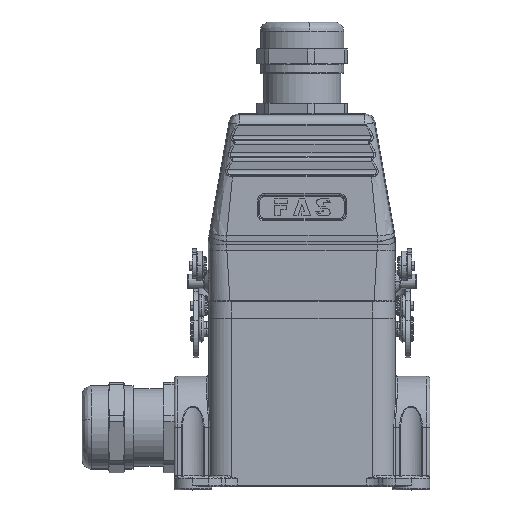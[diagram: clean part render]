
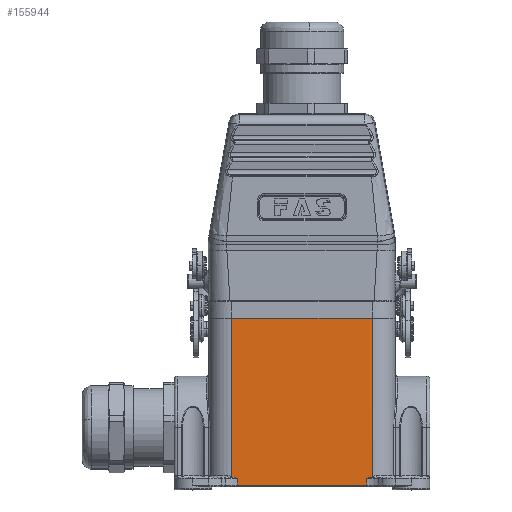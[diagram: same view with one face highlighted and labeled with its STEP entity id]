
A CAD part, top view. The second image highlights one B-rep face of the part: STEP entity #155944.
In plain terms, the highlighted planar face has unit normal (0, 0, 1) as drawn and (1, 0, 0) by its records, which use the part's own axes.
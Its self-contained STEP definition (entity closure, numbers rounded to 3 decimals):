
#370 = VECTOR ( 'NONE', #30819, 1000. ) ;
#898 = VECTOR ( 'NONE', #129121, 1000. ) ;
#4375 = CARTESIAN_POINT ( 'NONE',  ( 21.5, 3.216, -22.5 ) ) ;
#10214 = DIRECTION ( 'NONE',  ( 0., 1., 0. ) ) ;
#11310 = VERTEX_POINT ( 'NONE', #41848 ) ;
#14901 = VECTOR ( 'NONE', #144685, 1000. ) ;
#16534 = CARTESIAN_POINT ( 'NONE',  ( 21.5, 3.216, 22.5 ) ) ;
#17316 = DIRECTION ( 'NONE',  ( 0., -1., 0. ) ) ;
#18478 = CARTESIAN_POINT ( 'NONE',  ( 21.5, 3.123, 22.222 ) ) ;
#18586 = CARTESIAN_POINT ( 'NONE',  ( 21.5, 54., 22.5 ) ) ;
#20644 = CARTESIAN_POINT ( 'NONE',  ( 21.5, 2.565, -20.879 ) ) ;
#21063 = VERTEX_POINT ( 'NONE', #4375 ) ;
#21440 = CARTESIAN_POINT ( 'NONE',  ( 21.5, 3.015, -21.934 ) ) ;
#21601 = LINE ( 'NONE', #136534, #157988 ) ;
#22021 = VERTEX_POINT ( 'NONE', #26403 ) ;
#24574 = PLANE ( 'NONE',  #48036 ) ;
#26403 = CARTESIAN_POINT ( 'NONE',  ( 21.5, 54., -22.5 ) ) ;
#27118 = EDGE_CURVE ( 'NONE', #21063, #22021, #149546, .T. ) ;
#28550 = DIRECTION ( 'NONE',  ( 1., 0., 0. ) ) ;
#30819 = DIRECTION ( 'NONE',  ( 0., 0., 1. ) ) ;
#30968 = DIRECTION ( 'NONE',  ( 0., 1., 0. ) ) ;
#34483 = CARTESIAN_POINT ( 'NONE',  ( 21.5, 2.854, -21.544 ) ) ;
#39201 = VERTEX_POINT ( 'NONE', #16534 ) ;
#41848 = CARTESIAN_POINT ( 'NONE',  ( 21.5, 0.5, 20.737 ) ) ;
#41898 = CARTESIAN_POINT ( 'NONE',  ( 21.5, 54., 30. ) ) ;
#42238 = CARTESIAN_POINT ( 'NONE',  ( 21.5, 0.5, -22.746 ) ) ;
#48036 = AXIS2_PLACEMENT_3D ( 'NONE', #124049, #28550, #30968 ) ;
#50831 = VERTEX_POINT ( 'NONE', #18586 ) ;
#51328 = ORIENTED_EDGE ( 'NONE', *, *, #27118, .T. ) ;
#54714 = B_SPLINE_CURVE_WITH_KNOTS ( 'NONE', 3,
 ( #130157, #18478, #123566, #108133, #73795, #147314, #59995, #110576, #148107, #59192 ),
 .UNSPECIFIED., .F., .F.,
 ( 4, 1, 2, 2, 1, 4 ),
 ( 0., 0.5, 0.563, 0.625, 0.75, 1. ),
 .UNSPECIFIED. ) ;
#59192 = CARTESIAN_POINT ( 'NONE',  ( 21.5, 2.5, 20.737 ) ) ;
#59995 = CARTESIAN_POINT ( 'NONE',  ( 21.5, 2.756, 21.314 ) ) ;
#63686 = FACE_OUTER_BOUND ( 'NONE', #147184, .T. ) ;
#64018 = EDGE_CURVE ( 'NONE', #147212, #133190, #21601, .T. ) ;
#64651 = CARTESIAN_POINT ( 'NONE',  ( 21.5, 0., -22.5 ) ) ;
#70327 = CARTESIAN_POINT ( 'NONE',  ( 21.5, 2.756, -21.314 ) ) ;
#70374 = B_SPLINE_CURVE_WITH_KNOTS ( 'NONE', 3,
 ( #80982, #20644, #133134, #70327, #120095, #34483, #21440, #71144, #120922 ),
 .UNSPECIFIED., .F., .F.,
 ( 4, 1, 2, 2, 4 ),
 ( 0., 0.25, 0.375, 0.5, 1. ),
 .UNSPECIFIED. ) ;
#71144 = CARTESIAN_POINT ( 'NONE',  ( 21.5, 3.125, -22.227 ) ) ;
#73795 = CARTESIAN_POINT ( 'NONE',  ( 21.5, 2.819, 21.46 ) ) ;
#78946 = LINE ( 'NONE', #42238, #370 ) ;
#80982 = CARTESIAN_POINT ( 'NONE',  ( 21.5, 2.5, -20.737 ) ) ;
#81768 = ORIENTED_EDGE ( 'NONE', *, *, #141191, .T. ) ;
#84775 = VECTOR ( 'NONE', #17316, 1000. ) ;
#91351 = ORIENTED_EDGE ( 'NONE', *, *, #116264, .T. ) ;
#91473 = LINE ( 'NONE', #117563, #84775 ) ;
#93297 = CARTESIAN_POINT ( 'NONE',  ( 21.5, 2.5, 20.737 ) ) ;
#93933 = EDGE_CURVE ( 'NONE', #133190, #21063, #70374, .T. ) ;
#102941 = DIRECTION ( 'NONE',  ( 0., 1., 0. ) ) ;
#103070 = LINE ( 'NONE', #41898, #898 ) ;
#107114 = LINE ( 'NONE', #122587, #14901 ) ;
#108133 = CARTESIAN_POINT ( 'NONE',  ( 21.5, 2.852, 21.538 ) ) ;
#109142 = ORIENTED_EDGE ( 'NONE', *, *, #93933, .T. ) ;
#109240 = VERTEX_POINT ( 'NONE', #93297 ) ;
#110576 = CARTESIAN_POINT ( 'NONE',  ( 21.5, 2.662, 21.095 ) ) ;
#111985 = CARTESIAN_POINT ( 'NONE',  ( 21.5, 0.5, -20.737 ) ) ;
#116264 = EDGE_CURVE ( 'NONE', #39201, #109240, #54714, .T. ) ;
#116537 = CARTESIAN_POINT ( 'NONE',  ( 21.5, 2.5, -20.737 ) ) ;
#117563 = CARTESIAN_POINT ( 'NONE',  ( 21.5, 0., 22.5 ) ) ;
#119618 = VECTOR ( 'NONE', #102941, 1000. ) ;
#120095 = CARTESIAN_POINT ( 'NONE',  ( 21.5, 2.819, -21.461 ) ) ;
#120922 = CARTESIAN_POINT ( 'NONE',  ( 21.5, 3.216, -22.5 ) ) ;
#121589 = ORIENTED_EDGE ( 'NONE', *, *, #134035, .T. ) ;
#122587 = CARTESIAN_POINT ( 'NONE',  ( 21.5, 0., 20.737 ) ) ;
#123566 = CARTESIAN_POINT ( 'NONE',  ( 21.5, 2.999, 21.89 ) ) ;
#124049 = CARTESIAN_POINT ( 'NONE',  ( 21.5, 0., 30. ) ) ;
#129121 = DIRECTION ( 'NONE',  ( 0., 0., 1. ) ) ;
#129407 = EDGE_CURVE ( 'NONE', #50831, #39201, #91473, .T. ) ;
#130157 = CARTESIAN_POINT ( 'NONE',  ( 21.5, 3.216, 22.5 ) ) ;
#133134 = CARTESIAN_POINT ( 'NONE',  ( 21.5, 2.661, -21.094 ) ) ;
#133190 = VERTEX_POINT ( 'NONE', #116537 ) ;
#134035 = EDGE_CURVE ( 'NONE', #109240, #11310, #107114, .T. ) ;
#136534 = CARTESIAN_POINT ( 'NONE',  ( 21.5, 0., -20.737 ) ) ;
#137774 = ORIENTED_EDGE ( 'NONE', *, *, #151384, .F. ) ;
#141191 = EDGE_CURVE ( 'NONE', #22021, #50831, #103070, .T. ) ;
#144685 = DIRECTION ( 'NONE',  ( 0., -1., 0. ) ) ;
#147184 = EDGE_LOOP ( 'NONE', ( #158861, #91351, #121589, #137774, #157364, #109142, #51328, #81768 ) ) ;
#147212 = VERTEX_POINT ( 'NONE', #111985 ) ;
#147314 = CARTESIAN_POINT ( 'NONE',  ( 21.5, 2.804, 21.424 ) ) ;
#148107 = CARTESIAN_POINT ( 'NONE',  ( 21.5, 2.565, 20.879 ) ) ;
#149546 = LINE ( 'NONE', #64651, #119618 ) ;
#151384 = EDGE_CURVE ( 'NONE', #147212, #11310, #78946, .T. ) ;
#155944 = ADVANCED_FACE ( 'NONE', ( #63686 ), #24574, .T. ) ;
#157364 = ORIENTED_EDGE ( 'NONE', *, *, #64018, .T. ) ;
#157988 = VECTOR ( 'NONE', #10214, 1000. ) ;
#158861 = ORIENTED_EDGE ( 'NONE', *, *, #129407, .T. ) ;
